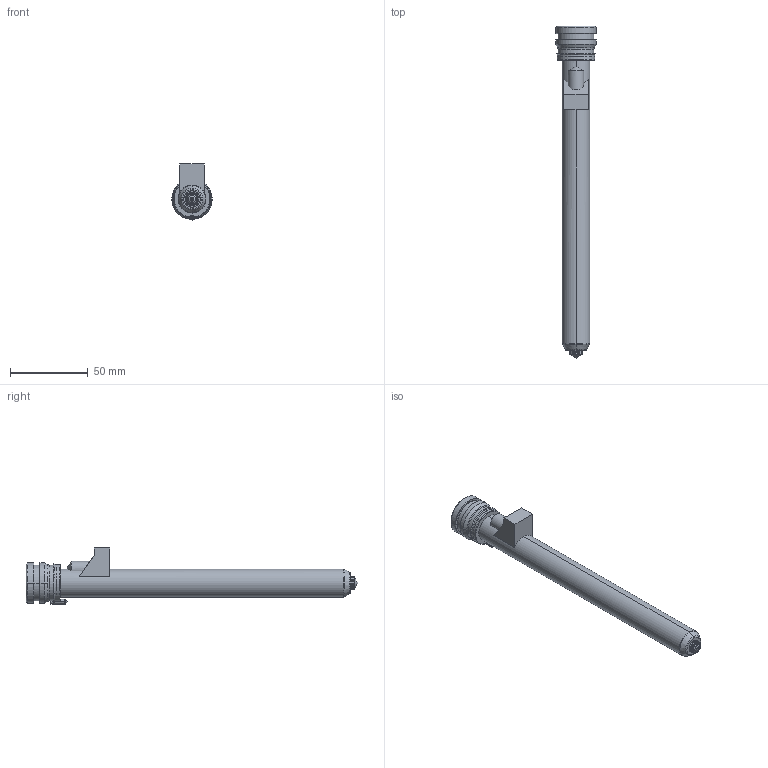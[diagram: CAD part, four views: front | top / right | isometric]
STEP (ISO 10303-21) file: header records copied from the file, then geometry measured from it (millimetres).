
FILE_DESCRIPTION((''),'2;1');
FILE_NAME('TH18196-M-1-PK-JG','2023-12-14T',('umhib'),('Thermoplay S.p.A.'),'PRO/ENGINEER BY PARAMETRIC TECHNOLOGY CORPORATION, 2017170','PRO/ENGINEER BY PARAMETRIC TECHNOLOGY CORPORATION, 2017170','');
FILE_SCHEMA(('CONFIG_CONTROL_DESIGN'));
Length unit declared in the file: millimetre
Products named in the file (1): TH18196-M-1-PK-JG
Bounding box: 26 x 214 x 36.1 mm (x, y, z)
Volume: 42304.4 mm3; surface area: 31695 mm2
Topology: 1 solids, 2 shells, 391 faces, 999 edges, 613 vertices
Faces by surface type: cylinder 149, plane 87, cone 62, torus 58, bspline 22, sphere 11, extrusion 2
Entity records: 16786 total; most frequent: CARTESIAN_POINT 5158, DIRECTION 2000, ORIENTED_EDGE 1972, EDGE_CURVE 988, AXIS2_PLACEMENT_3D 806, VERTEX_POINT 613, CIRCLE 438, EDGE_LOOP 414
